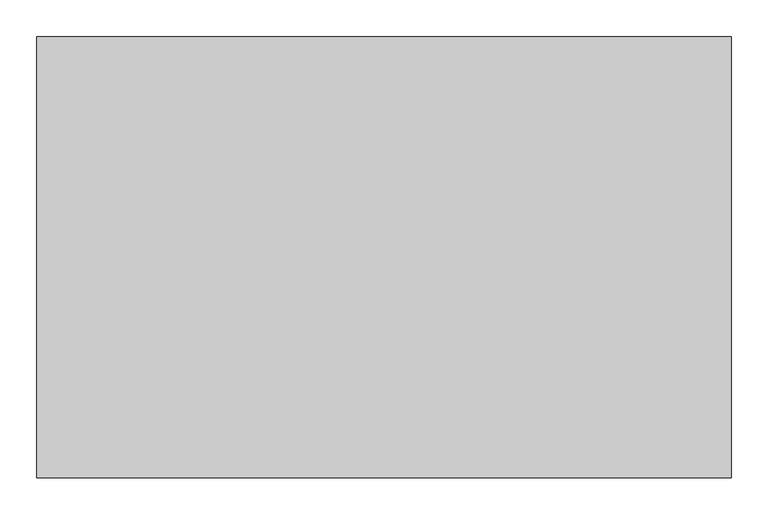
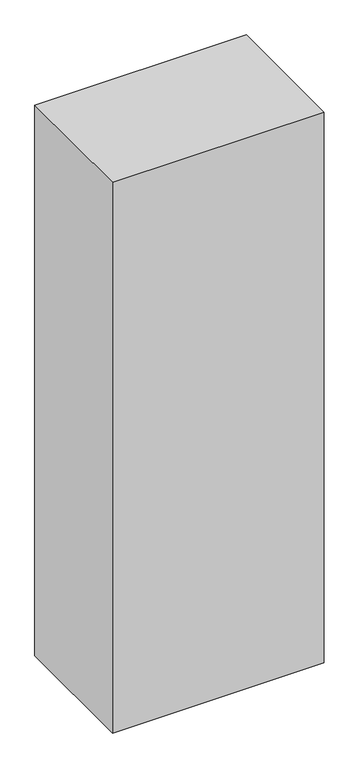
"""IFC4 building model written with IfcOpenShell, lengths in millimetres: furniture geometry, Fu_шкаф 1-с : Шкаф 1-створчатый."""

from ifc_helpers import new_model, si_unit, origin, origin_with_axes, place, context, project, spatial, polyline, outline, extrude, source, transform, mapped, element, save


def furniture_97130b12(model_context):
    return source(origin(), model_context, "Body", "SweptSolid", [
        extrude(outline(polyline([(945.0, 0.0), (0.0, 0.0), (0.0, 600.0), (945.0, 600.0), (945.0, 0.0)])), origin_with_axes(), (0.0, 0.0, 1.0), 2600.0),
    ])


if __name__ == "__main__":
    model = new_model("IFC4")
    model_context = context("Model", 3, world=origin())
    ifc_project = project(units=[si_unit("LENGTHUNIT", "METRE", prefix="MILLI")], contexts=[model_context])
    site = spatial("IfcSite", under=ifc_project)
    building = spatial("IfcBuilding", under=site)
    placement = place(None, origin())
    furniture_shape = furniture_97130b12(model_context)
    element("IfcFurniture", 1, ObjectType="Fu_шкаф 1-с : Шкаф 1-створчатый", at=placement, inside=building, context=model_context, shape_type="MappedRepresentation", body=[
        mapped(furniture_shape, transform((0.0, 0.0, 0.0), x_axis=(1.0, 0.0, 0.0), y_axis=(0.0, 1.0, 0.0), z_axis=(0.0, 0.0, 1.0))),
    ])
    save(model, "model.ifc")
